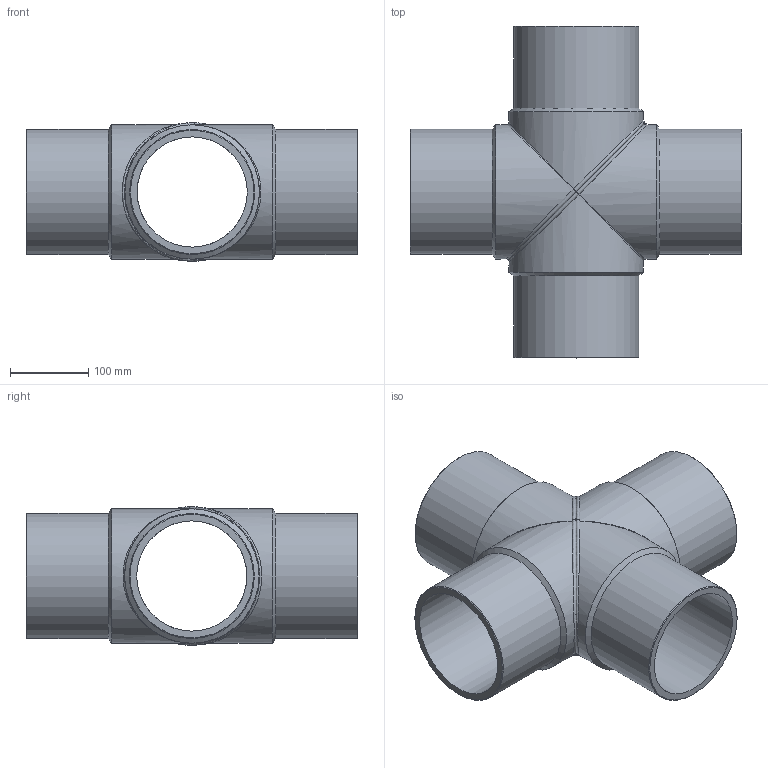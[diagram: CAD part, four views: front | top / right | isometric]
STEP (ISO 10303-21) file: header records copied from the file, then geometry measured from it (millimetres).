
FILE_DESCRIPTION(/* description */ ('Unknown'),/* implementation_level */ '2;1');
FILE_NAME(/* name */ 'CRP160B',/* time_stamp */ '2022-07-08T10:55:55+02:00',/* author */ ('Unknown'),/* organization */ ('Unknown'),/* preprocessor_version */ 'ST-DEVELOPER v18.102',/* originating_system */ 'Solid Edge',/* authorisation */ 'Unknown');
FILE_SCHEMA (('AUTOMOTIVE_DESIGN {1 0 10303 214 3 1 1}'));
Length unit declared in the file: millimetre
Products named in the file (3): CRP160B; CRP160B_mir
Assembly tree (2 placements, depth 2):
  CRP160B
    CRP160B
    CRP160B_mir
Bounding box: 424.5 x 424.5 x 176.99 mm (x, y, z)
Volume: 3608287.6 mm3; surface area: 667008.8 mm2
Topology: 2 solids, 2 shells, 32 faces, 90 edges, 60 vertices
Faces by surface type: cylinder 12, cone 8, plane 6, bspline 6
Full cylindrical faces by diameter (mm): 141 x4, 160 x4, 172 x4
Entity records: 3193 total; most frequent: CARTESIAN_POINT 2465, DIRECTION 126, ORIENTED_EDGE 120, AXIS2_PLACEMENT_3D 63, EDGE_CURVE 60, EDGE_LOOP 58, FACE_BOUND 58, VERTEX_POINT 50
